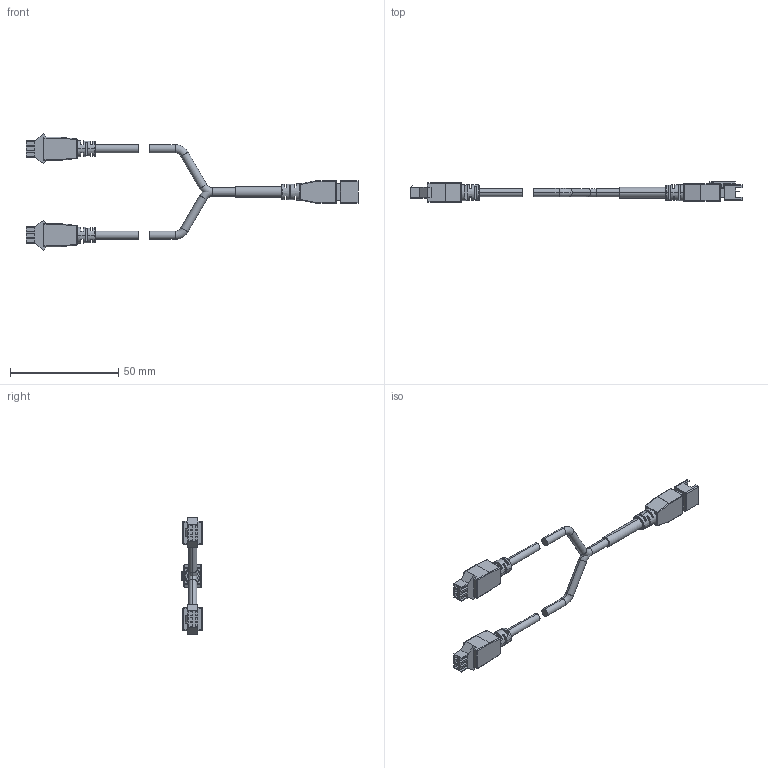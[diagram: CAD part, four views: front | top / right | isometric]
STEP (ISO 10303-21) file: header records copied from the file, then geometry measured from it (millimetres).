
FILE_DESCRIPTION((''),'2;1');
FILE_NAME('MV-LW-003-2-S_ASM','2021-01-11T',('win7'),(''),'PRO/ENGINEER BY PARAMETRIC TECHNOLOGY CORPORATION, 2010100','PRO/ENGINEER BY PARAMETRIC TECHNOLOGY CORPORATION, 2010100','');
FILE_SCHEMA(('CONFIG_CONTROL_DESIGN'));
Length unit declared in the file: millimetre
Products named in the file (4): SMR-03V-B-; SMP-03V-BC-; SMP-03V-BC-2; MV-LW-003-2-S_ASM
Assembly tree (3 placements, depth 2):
  MV-LW-003-2-S_ASM
    SMR-03V-B-
    SMP-03V-BC-
    SMP-03V-BC-2
Bounding box: 153.6 x 9.65 x 54 mm (x, y, z)
Volume: 8060.3 mm3; surface area: 6592.2 mm2
Topology: 5 solids, 5 shells, 459 faces, 1120 edges, 699 vertices
Faces by surface type: plane 292, cylinder 109, sphere 24, torus 20, bspline 8, cone 6
Entity records: 13592 total; most frequent: CARTESIAN_POINT 2637, DIRECTION 2272, ORIENTED_EDGE 2240, EDGE_CURVE 1120, VECTOR 768, LINE 768, AXIS2_PLACEMENT_3D 752, VERTEX_POINT 699
